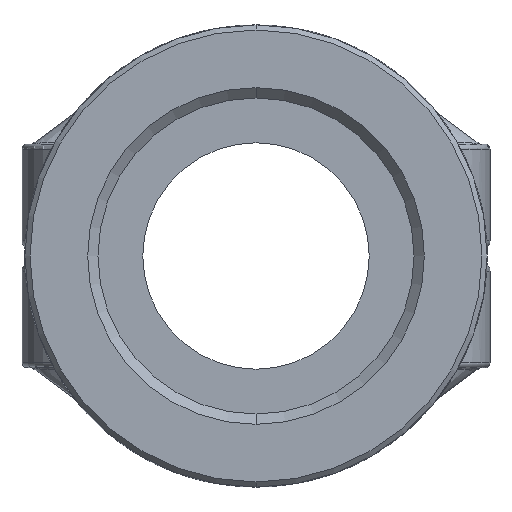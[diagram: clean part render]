
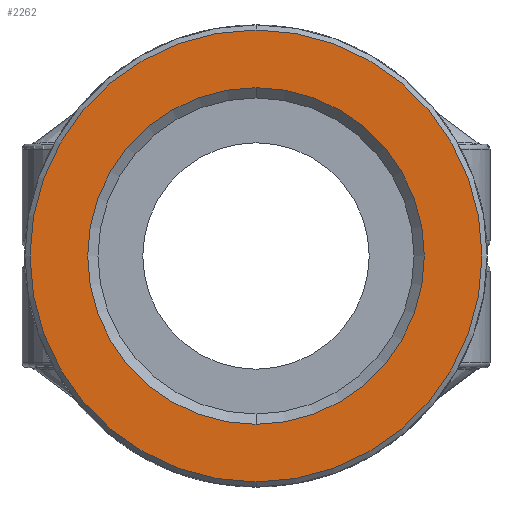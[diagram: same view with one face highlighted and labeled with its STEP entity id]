
A CAD part, left-side view. The second image highlights one B-rep face of the part: STEP entity #2262.
In plain terms, the highlighted planar face has unit normal (-1, 0, 0).
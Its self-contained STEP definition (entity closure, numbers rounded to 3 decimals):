
#51=CARTESIAN_POINT('',(-61.018,0.,0.));
#52=DIRECTION('',(1.,0.,0.));
#53=DIRECTION('',(0.,0.,1.));
#54=AXIS2_PLACEMENT_3D('',#51,#52,#53);
#59=CARTESIAN_POINT('',(-61.018,0.,0.));
#60=DIRECTION('',(1.,0.,0.));
#61=DIRECTION('',(0.,0.,-1.));
#62=AXIS2_PLACEMENT_3D('',#59,#60,#61);
#67=CARTESIAN_POINT('',(-61.018,0.,0.));
#68=DIRECTION('',(-1.,0.,0.));
#69=DIRECTION('',(0.,0.,1.));
#70=AXIS2_PLACEMENT_3D('',#67,#68,#69);
#75=CARTESIAN_POINT('',(-61.018,0.,0.));
#76=DIRECTION('',(-1.,0.,0.));
#77=DIRECTION('',(0.,0.,-1.));
#78=AXIS2_PLACEMENT_3D('',#75,#76,#77);
#2009=CARTESIAN_POINT('',(-61.018,0.,-22.211));
#2010=CARTESIAN_POINT('',(-61.018,0.,22.211));
#2011=VERTEX_POINT('',#2009);
#2012=VERTEX_POINT('',#2010);
#2013=CARTESIAN_POINT('',(-61.018,0.,16.545));
#2014=CARTESIAN_POINT('',(-61.018,0.,-16.545));
#2015=VERTEX_POINT('',#2013);
#2016=VERTEX_POINT('',#2014);
#2246=CARTESIAN_POINT('',(-61.018,22.211,0.));
#2247=DIRECTION('',(1.,0.,0.));
#2248=DIRECTION('',(0.,0.,-1.));
#2249=AXIS2_PLACEMENT_3D('',#2246,#2247,#2248);
#2250=PLANE('',#2249);
#2252=ORIENTED_EDGE('',*,*,#2251,.T.);
#2253=ORIENTED_EDGE('',*,*,#2236,.T.);
#2254=EDGE_LOOP('',(#2252,#2253));
#2255=FACE_OUTER_BOUND('',#2254,.F.);
#2257=ORIENTED_EDGE('',*,*,#2256,.T.);
#2259=ORIENTED_EDGE('',*,*,#2258,.T.);
#2260=EDGE_LOOP('',(#2257,#2259));
#2261=FACE_BOUND('',#2260,.F.);
#55=CIRCLE('',#54,22.211);
#63=CIRCLE('',#62,22.211);
#71=CIRCLE('',#70,16.545);
#79=CIRCLE('',#78,16.545);
#2236=EDGE_CURVE('',#2011,#2012,#63,.T.);
#2251=EDGE_CURVE('',#2012,#2011,#55,.T.);
#2256=EDGE_CURVE('',#2015,#2016,#71,.T.);
#2258=EDGE_CURVE('',#2016,#2015,#79,.T.);
#2262=ADVANCED_FACE('',(#2255,#2261),#2250,.F.);
